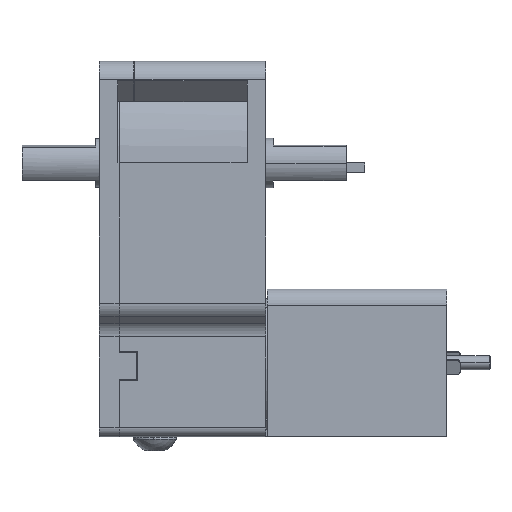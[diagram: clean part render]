
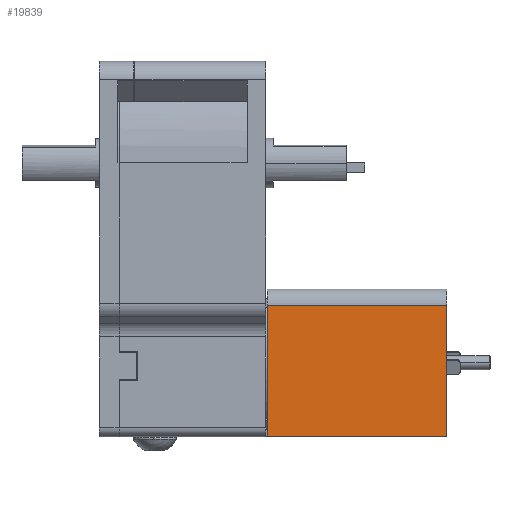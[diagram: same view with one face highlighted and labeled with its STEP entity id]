
A CAD part, left-side view. The second image highlights one B-rep face of the part: STEP entity #19839.
In plain terms, the highlighted planar face has unit normal (-1, 0, 0) as drawn and (1, 0, 0) by its records, which use the part's own axes.
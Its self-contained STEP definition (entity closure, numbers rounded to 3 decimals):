
#18947=DIRECTION('',(0.,1.,0.));
#18948=VECTOR('',#18947,14.2);
#18949=CARTESIAN_POINT('',(9.,-12.2,18.8));
#18950=LINE('',#18949,#18948);
#19102=DIRECTION('',(0.,0.,-1.));
#19103=VECTOR('',#19102,19.4);
#19104=CARTESIAN_POINT('',(9.,2.,18.8));
#19105=LINE('',#19104,#19103);
#19214=DIRECTION('',(0.,0.,1.));
#19215=VECTOR('',#19214,19.4);
#19216=CARTESIAN_POINT('',(9.,-12.2,-0.6));
#19217=LINE('',#19216,#19215);
#19222=DIRECTION('',(0.,1.,0.));
#19223=VECTOR('',#19222,14.2);
#19224=CARTESIAN_POINT('',(9.,-12.2,-0.6));
#19225=LINE('',#19224,#19223);
#19302=CARTESIAN_POINT('',(9.,-12.2,-0.6));
#19303=CARTESIAN_POINT('',(9.,-12.2,18.8));
#19304=VERTEX_POINT('',#19302);
#19305=VERTEX_POINT('',#19303);
#19325=CARTESIAN_POINT('',(9.,2.,-0.6));
#19327=VERTEX_POINT('',#19325);
#19344=CARTESIAN_POINT('',(9.,2.,18.8));
#19345=VERTEX_POINT('',#19344);
#19828=CARTESIAN_POINT('',(9.,0.,18.8));
#19829=DIRECTION('',(1.,0.,0.));
#19830=DIRECTION('',(0.,1.,0.));
#19831=AXIS2_PLACEMENT_3D('',#19828,#19829,#19830);
#19832=PLANE('',#19831);
#19833=ORIENTED_EDGE('',*,*,#19636,.T.);
#19834=ORIENTED_EDGE('',*,*,#19757,.F.);
#19835=ORIENTED_EDGE('',*,*,#19820,.T.);
#19836=ORIENTED_EDGE('',*,*,#19504,.T.);
#19837=EDGE_LOOP('',(#19833,#19834,#19835,#19836));
#19838=FACE_OUTER_BOUND('',#19837,.F.);
#19839=ADVANCED_FACE('',(#19838),#19832,.T.);
#19504=EDGE_CURVE('',#19305,#19345,#18950,.T.);
#19636=EDGE_CURVE('',#19345,#19327,#19105,.T.);
#19757=EDGE_CURVE('',#19304,#19327,#19225,.T.);
#19820=EDGE_CURVE('',#19304,#19305,#19217,.T.);
